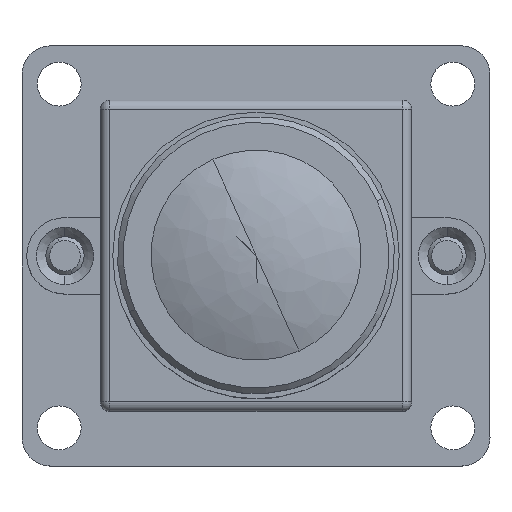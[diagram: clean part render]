
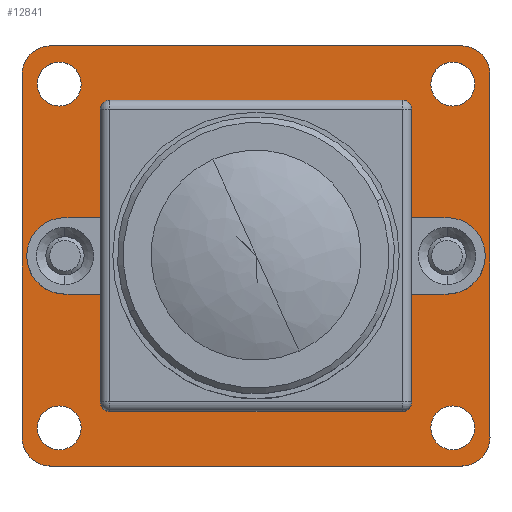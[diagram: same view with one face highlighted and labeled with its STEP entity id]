
A CAD part, top view. The second image highlights one B-rep face of the part: STEP entity #12841.
In plain terms, the highlighted planar face has unit normal (0, 0, 1).
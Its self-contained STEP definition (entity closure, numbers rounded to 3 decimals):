
#12330=CARTESIAN_POINT('',(-14.088,-11.116,
0.44));
#12331=DIRECTION('',(0.,0.,1.));
#12332=DIRECTION('',(-1.,-0.002,0.));
#12333=AXIS2_PLACEMENT_3D('',#12330,#12331,#12332);
#12335=DIRECTION('',(0.,-1.,0.));
#12336=VECTOR('',#12335,19.);
#12337=CARTESIAN_POINT('',(-15.59,7.882,
0.44));
#12338=LINE('',#12337,#12336);
#12339=CARTESIAN_POINT('',(-14.089,7.882,
0.44));
#12340=DIRECTION('',(0.,0.,1.));
#12341=DIRECTION('',(0.,1.,0.));
#12342=AXIS2_PLACEMENT_3D('',#12339,#12340,#12341);
#12344=DIRECTION('',(-1.,0.,0.));
#12345=VECTOR('',#12344,21.5);
#12346=CARTESIAN_POINT('',(7.41,9.382,
0.44));
#12347=LINE('',#12346,#12345);
#12348=CARTESIAN_POINT('',(7.411,7.883,
0.44));
#12349=DIRECTION('',(0.,0.,1.));
#12350=DIRECTION('',(1.,-0.001,0.));
#12351=AXIS2_PLACEMENT_3D('',#12348,#12349,#12350);
#12353=DIRECTION('',(0.,1.,0.));
#12354=VECTOR('',#12353,18.999);
#12355=CARTESIAN_POINT('',(8.91,-11.118,
0.44));
#12356=LINE('',#12355,#12354);
#12357=CARTESIAN_POINT('',(7.41,-11.117,
0.44));
#12358=DIRECTION('',(0.,0.,1.));
#12359=DIRECTION('',(0.,-1.,0.));
#12360=AXIS2_PLACEMENT_3D('',#12357,#12358,#12359);
#12362=DIRECTION('',(1.,0.,0.));
#12363=VECTOR('',#12362,21.5);
#12364=CARTESIAN_POINT('',(-14.09,-12.618,
0.44));
#12365=LINE('',#12364,#12363);
#12366=CARTESIAN_POINT('',(6.96,7.382,
0.44));
#12367=DIRECTION('',(0.,0.,-1.));
#12368=DIRECTION('',(-1.,0.,0.));
#12369=AXIS2_PLACEMENT_3D('',#12366,#12367,#12368);
#12371=CARTESIAN_POINT('',(6.96,7.382,
0.44));
#12372=DIRECTION('',(0.,0.,-1.));
#12373=DIRECTION('',(1.,0.,0.));
#12374=AXIS2_PLACEMENT_3D('',#12371,#12372,#12373);
#12376=CARTESIAN_POINT('',(6.66,-1.618,
0.44));
#12377=DIRECTION('',(0.,0.,1.));
#12378=DIRECTION('',(1.,0.,0.));
#12379=AXIS2_PLACEMENT_3D('',#12376,#12377,#12378);
#12381=CARTESIAN_POINT('',(6.66,-1.618,
0.44));
#12382=DIRECTION('',(0.,0.,1.));
#12383=DIRECTION('',(-1.,0.,0.));
#12384=AXIS2_PLACEMENT_3D('',#12381,#12382,#12383);
#12386=CARTESIAN_POINT('',(6.96,-10.618,
0.44));
#12387=DIRECTION('',(0.,0.,-1.));
#12388=DIRECTION('',(-1.,0.,0.));
#12389=AXIS2_PLACEMENT_3D('',#12386,#12387,#12388);
#12391=CARTESIAN_POINT('',(6.96,-10.618,
0.44));
#12392=DIRECTION('',(0.,0.,-1.));
#12393=DIRECTION('',(1.,0.,0.));
#12394=AXIS2_PLACEMENT_3D('',#12391,#12392,#12393);
#12396=CARTESIAN_POINT('',(-13.34,-1.618,
0.44));
#12397=DIRECTION('',(0.,0.,1.));
#12398=DIRECTION('',(1.,0.,0.));
#12399=AXIS2_PLACEMENT_3D('',#12396,#12397,#12398);
#12401=CARTESIAN_POINT('',(-13.34,-1.618,
0.44));
#12402=DIRECTION('',(0.,0.,1.));
#12403=DIRECTION('',(-1.,0.,0.));
#12404=AXIS2_PLACEMENT_3D('',#12401,#12402,#12403);
#12406=CARTESIAN_POINT('',(-13.64,7.382,
0.44));
#12407=DIRECTION('',(0.,0.,-1.));
#12408=DIRECTION('',(-1.,0.,0.));
#12409=AXIS2_PLACEMENT_3D('',#12406,#12407,#12408);
#12411=CARTESIAN_POINT('',(-13.64,7.382,
0.44));
#12412=DIRECTION('',(0.,0.,-1.));
#12413=DIRECTION('',(1.,0.,0.));
#12414=AXIS2_PLACEMENT_3D('',#12411,#12412,#12413);
#12416=CARTESIAN_POINT('',(-13.64,-10.618,
0.44));
#12417=DIRECTION('',(0.,0.,-1.));
#12418=DIRECTION('',(-1.,0.,0.));
#12419=AXIS2_PLACEMENT_3D('',#12416,#12417,#12418);
#12421=CARTESIAN_POINT('',(-13.64,-10.618,
0.44));
#12422=DIRECTION('',(0.,0.,-1.));
#12423=DIRECTION('',(1.,0.,0.));
#12424=AXIS2_PLACEMENT_3D('',#12421,#12422,#12423);
#12455=CARTESIAN_POINT('',(-14.79,7.382,
0.44));
#12457=VERTEX_POINT('',#12455);
#12459=CARTESIAN_POINT('',(7.41,9.382,
0.44));
#12461=VERTEX_POINT('',#12459);
#12466=CARTESIAN_POINT('',(-14.089,9.382,
0.44));
#12467=CARTESIAN_POINT('',(-15.59,7.882,
0.44));
#12468=VERTEX_POINT('',#12466);
#12469=VERTEX_POINT('',#12467);
#12470=CARTESIAN_POINT('',(-14.44,-1.618,
0.44));
#12471=CARTESIAN_POINT('',(-12.24,-1.618,
0.44));
#12472=VERTEX_POINT('',#12470);
#12473=VERTEX_POINT('',#12471);
#12475=CARTESIAN_POINT('',(5.81,7.382,
0.44));
#12477=VERTEX_POINT('',#12475);
#12489=CARTESIAN_POINT('',(8.91,-11.118,
0.44));
#12491=VERTEX_POINT('',#12489);
#12492=CARTESIAN_POINT('',(8.11,7.382,
0.44));
#12493=VERTEX_POINT('',#12492);
#12494=CARTESIAN_POINT('',(8.91,7.881,
0.44));
#12495=VERTEX_POINT('',#12494);
#12502=CARTESIAN_POINT('',(7.409,-12.618,
0.44));
#12503=VERTEX_POINT('',#12502);
#12504=CARTESIAN_POINT('',(-12.49,7.382,
0.44));
#12505=VERTEX_POINT('',#12504);
#12512=CARTESIAN_POINT('',(-15.59,-11.118,
0.44));
#12513=CARTESIAN_POINT('',(-14.09,-12.618,
0.44));
#12514=VERTEX_POINT('',#12512);
#12515=VERTEX_POINT('',#12513);
#12520=CARTESIAN_POINT('',(7.76,-1.618,
0.44));
#12521=CARTESIAN_POINT('',(5.56,-1.618,
0.44));
#12522=VERTEX_POINT('',#12520);
#12523=VERTEX_POINT('',#12521);
#12524=CARTESIAN_POINT('',(-12.49,-10.618,
0.44));
#12525=VERTEX_POINT('',#12524);
#12526=CARTESIAN_POINT('',(5.81,-10.618,
0.44));
#12527=VERTEX_POINT('',#12526);
#12530=CARTESIAN_POINT('',(-14.79,-10.618,
0.44));
#12531=VERTEX_POINT('',#12530);
#12532=CARTESIAN_POINT('',(8.11,-10.618,
0.44));
#12533=VERTEX_POINT('',#12532);
#12791=CARTESIAN_POINT('',(-3.34,-1.618,
0.44));
#12792=DIRECTION('',(0.,0.,-1.));
#12793=DIRECTION('',(0.,-1.,0.));
#12794=AXIS2_PLACEMENT_3D('',#12791,#12792,#12793);
#12795=PLANE('',#12794);
#12796=ORIENTED_EDGE('',*,*,#12698,.F.);
#12797=ORIENTED_EDGE('',*,*,#12677,.F.);
#12798=ORIENTED_EDGE('',*,*,#12655,.F.);
#12799=ORIENTED_EDGE('',*,*,#12633,.F.);
#12800=ORIENTED_EDGE('',*,*,#12611,.F.);
#12801=ORIENTED_EDGE('',*,*,#12589,.F.);
#12802=ORIENTED_EDGE('',*,*,#12567,.F.);
#12803=ORIENTED_EDGE('',*,*,#12545,.F.);
#12804=EDGE_LOOP('',(#12796,#12797,#12798,#12799,#12800,#12801,#12802,#12803));
#12805=FACE_OUTER_BOUND('',#12804,.F.);
#12806=ORIENTED_EDGE('',*,*,#12774,.F.);
#12808=ORIENTED_EDGE('',*,*,#12807,.F.);
#12809=EDGE_LOOP('',(#12806,#12808));
#12810=FACE_BOUND('',#12809,.F.);
#12812=ORIENTED_EDGE('',*,*,#12811,.T.);
#12814=ORIENTED_EDGE('',*,*,#12813,.T.);
#12815=EDGE_LOOP('',(#12812,#12814));
#12816=FACE_BOUND('',#12815,.F.);
#12818=ORIENTED_EDGE('',*,*,#12817,.F.);
#12820=ORIENTED_EDGE('',*,*,#12819,.F.);
#12821=EDGE_LOOP('',(#12818,#12820));
#12822=FACE_BOUND('',#12821,.F.);
#12824=ORIENTED_EDGE('',*,*,#12823,.T.);
#12826=ORIENTED_EDGE('',*,*,#12825,.T.);
#12827=EDGE_LOOP('',(#12824,#12826));
#12828=FACE_BOUND('',#12827,.F.);
#12830=ORIENTED_EDGE('',*,*,#12829,.F.);
#12832=ORIENTED_EDGE('',*,*,#12831,.F.);
#12833=EDGE_LOOP('',(#12830,#12832));
#12834=FACE_BOUND('',#12833,.F.);
#12836=ORIENTED_EDGE('',*,*,#12835,.F.);
#12838=ORIENTED_EDGE('',*,*,#12837,.F.);
#12839=EDGE_LOOP('',(#12836,#12838));
#12840=FACE_BOUND('',#12839,.F.);
#12334=CIRCLE('',#12333,1.502);
#12343=CIRCLE('',#12342,1.501);
#12352=CIRCLE('',#12351,1.499);
#12361=CIRCLE('',#12360,1.501);
#12370=CIRCLE('',#12369,1.15);
#12375=CIRCLE('',#12374,1.15);
#12380=CIRCLE('',#12379,1.1);
#12385=CIRCLE('',#12384,1.1);
#12390=CIRCLE('',#12389,1.15);
#12395=CIRCLE('',#12394,1.15);
#12400=CIRCLE('',#12399,1.1);
#12405=CIRCLE('',#12404,1.1);
#12410=CIRCLE('',#12409,1.15);
#12415=CIRCLE('',#12414,1.15);
#12420=CIRCLE('',#12419,1.15);
#12425=CIRCLE('',#12424,1.15);
#12545=EDGE_CURVE('',#12515,#12503,#12365,.T.);
#12567=EDGE_CURVE('',#12503,#12491,#12361,.T.);
#12589=EDGE_CURVE('',#12491,#12495,#12356,.T.);
#12611=EDGE_CURVE('',#12495,#12461,#12352,.T.);
#12633=EDGE_CURVE('',#12461,#12468,#12347,.T.);
#12655=EDGE_CURVE('',#12468,#12469,#12343,.T.);
#12677=EDGE_CURVE('',#12469,#12514,#12338,.T.);
#12698=EDGE_CURVE('',#12514,#12515,#12334,.T.);
#12774=EDGE_CURVE('',#12477,#12493,#12370,.T.);
#12807=EDGE_CURVE('',#12493,#12477,#12375,.T.);
#12811=EDGE_CURVE('',#12522,#12523,#12380,.T.);
#12813=EDGE_CURVE('',#12523,#12522,#12385,.T.);
#12817=EDGE_CURVE('',#12527,#12533,#12390,.T.);
#12819=EDGE_CURVE('',#12533,#12527,#12395,.T.);
#12823=EDGE_CURVE('',#12473,#12472,#12400,.T.);
#12825=EDGE_CURVE('',#12472,#12473,#12405,.T.);
#12829=EDGE_CURVE('',#12457,#12505,#12410,.T.);
#12831=EDGE_CURVE('',#12505,#12457,#12415,.T.);
#12835=EDGE_CURVE('',#12531,#12525,#12420,.T.);
#12837=EDGE_CURVE('',#12525,#12531,#12425,.T.);
#12841=ADVANCED_FACE('',(#12805,#12810,#12816,#12822,#12828,#12834,#12840),
#12795,.F.);
